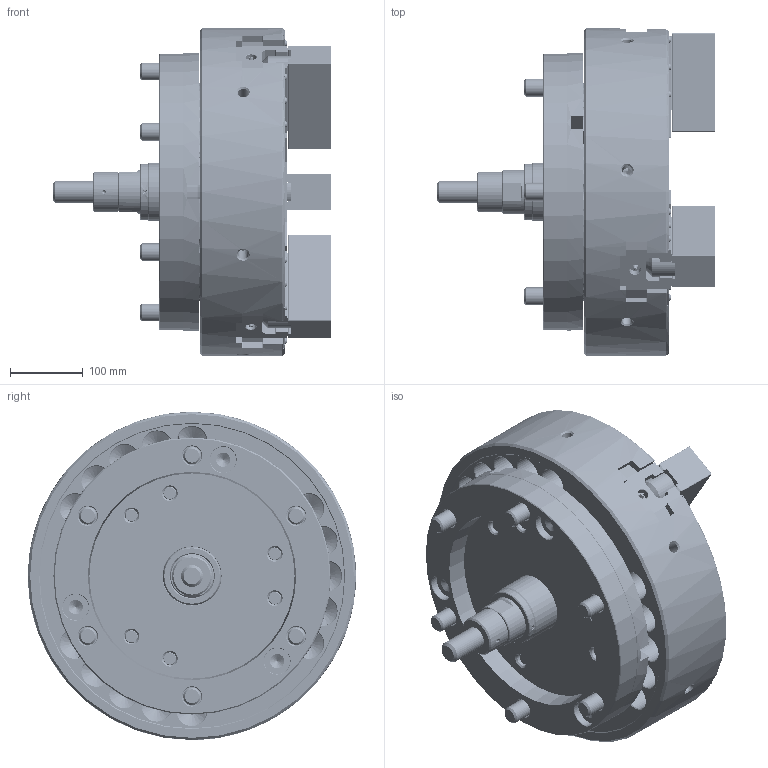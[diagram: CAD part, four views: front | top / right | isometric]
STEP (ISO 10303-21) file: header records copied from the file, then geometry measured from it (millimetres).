
FILE_DESCRIPTION (( 'STEP AP214' ), '1' );
FILE_NAME ('DT1_NV18C15_OUTSIDE_VIEW_OC.STEP', '2026-03-24T03:09:59', ( '' ), ( '' ), 'SwSTEP 2.0', 'SolidWorks 2022', '' );
FILE_SCHEMA (( 'AUTOMOTIVE_DESIGN' ));
Length unit declared in the file: millimetre
Products named in the file (17): DT1_NV18C15_M20x55^DT1_NV18C1500; DT1_NV18C15_COVER^DT1_NV18C1500; DT1_NV18C15_DN^DT1_NV18C1500; DT1_NV18C15_CAP^DT1_NV18C1500; DT1_NV18C15_M20x110^DT1_NV18C1500; DT1_NV18C15_P80^DT1_NV18C1500_円筒用; DT1_NV18C15_ORING^DT1_NV18C1500; DT1_NV18C15_SOFTJAW^DT1_NV18C1500; DT1_NV18C15_COVERFOOTER^DT1_NV18C1500; DT1_NV18C15_DRAWSCREW^DT1_NV18C1500; DT1_NV18C15_OUTSIDE_VIEW_OC; DT1_NV18C15_BASE^DT1_NV18C1500; DT1_NV18C15_BP^DT1_NV18C1500; DT1_NV18C15_M6x12^DT1_NV18C1500; DT1_NV18C15_TNUT^DT1_NV18C1500; DT1_NV18C15_S39^DT1_NV18C1500_円筒用; Copy of 61P321208^DT1_NV18C1500
Assembly tree (45 placements, depth 2):
  DT1_NV18C15_OUTSIDE_VIEW_OC
    DT1_NV18C15_SOFTJAW^DT1_NV18C1500  x3
    DT1_NV18C15_TNUT^DT1_NV18C1500  x6
    DT1_NV18C15_COVER^DT1_NV18C1500
    DT1_NV18C15_DRAWSCREW^DT1_NV18C1500
    Copy of 61P321208^DT1_NV18C1500
    DT1_NV18C15_COVERFOOTER^DT1_NV18C1500
    DT1_NV18C15_DN^DT1_NV18C1500
    DT1_NV18C15_BP^DT1_NV18C1500
    DT1_NV18C15_BASE^DT1_NV18C1500
    DT1_NV18C15_M6x12^DT1_NV18C1500  x6
    DT1_NV18C15_M20x55^DT1_NV18C1500  x6
    DT1_NV18C15_M20x110^DT1_NV18C1500  x6
    DT1_NV18C15_S39^DT1_NV18C1500_円筒用
    DT1_NV18C15_P80^DT1_NV18C1500_円筒用
    DT1_NV18C15_CAP^DT1_NV18C1500  x6
    DT1_NV18C15_ORING^DT1_NV18C1500  x3
Bounding box: 382 x 450 x 450 mm (x, y, z)
Volume: 22513633 mm3; surface area: 1778527.8 mm2
Topology: 45 solids, 99 shells, 8861 faces, 24460 edges, 15846 vertices
Faces by surface type: plane 5594, cylinder 1305, cone 961, bspline 823, torus 172, sphere 6
Entity records: 260778 total; most frequent: CARTESIAN_POINT 84743, ORIENTED_EDGE 39312, DIRECTION 31422, EDGE_CURVE 19656, LINE 13630, VECTOR 13630, VERTEX_POINT 12842, AXIS2_PLACEMENT_3D 8896
